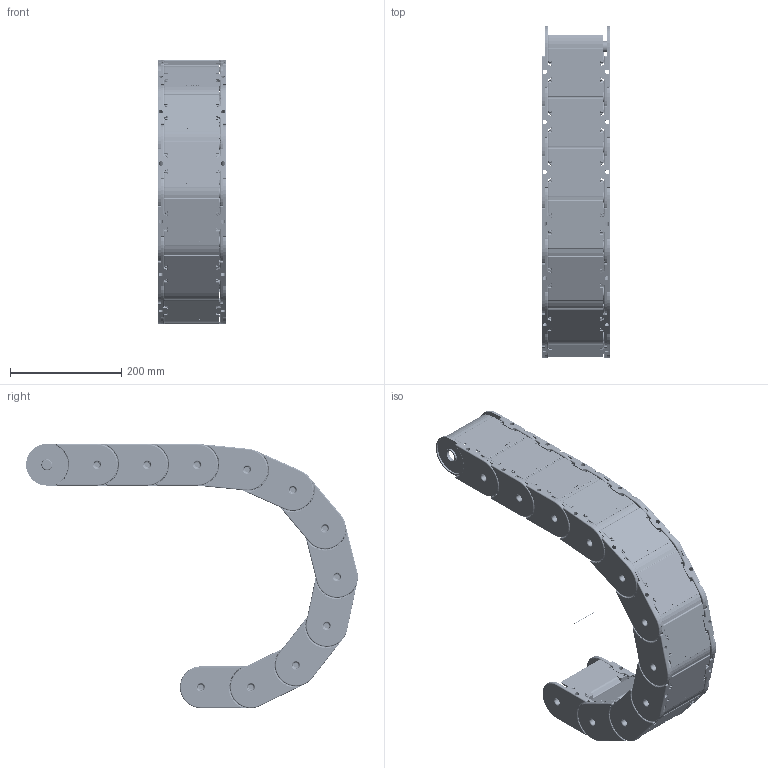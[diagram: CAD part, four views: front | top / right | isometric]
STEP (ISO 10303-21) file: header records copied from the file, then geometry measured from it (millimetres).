
FILE_DESCRIPTION((''),'2;1');
FILE_NAME('E:\Uebbing\PARAMETERKETTEN\PKK\PKK 315\PKK 315 vereinfacht\PKK 315 vereinfacht.stp','2017-11-13T15:18:27',('Nutzer'),(''),'Autodesk Inventor 10','Autodesk Inventor 10','');
FILE_SCHEMA(('AUTOMOTIVE_DESIGN { 1 0 10303 214 1 1 1 1 }'));
Length unit declared in the file: millimetre
Products named in the file (3): PKK 315 vereinfacht; Achse; PKK 315 Glied vereinfacht
Assembly tree (12 placements, depth 2):
  PKK 315 vereinfacht
    Achse
    PKK 315 Glied vereinfacht  x11
Bounding box: 124 x 596.48 x 475 mm (x, y, z)
Volume: 1982361.4 mm3; surface area: 1198836 mm2
Topology: 12 solids, 12 shells, 8880 faces, 23775 edges, 14545 vertices
Faces by surface type: plane 3643, bspline 2530, cylinder 2069, torus 429, sphere 209
Full cylindrical faces by diameter (mm): 1 x1, 1.421 x11, 2.495 x11, 8 x22, 12 x22, 20 x22, 20.2 x22, 26 x44, 70 x44
Entity records: 36216 total; most frequent: CARTESIAN_POINT 17163, ORIENTED_EDGE 4152, DIRECTION 3604, EDGE_CURVE 2076, VERTEX_POINT 1322, VECTOR 1246, LINE 1246, AXIS2_PLACEMENT_3D 1179
